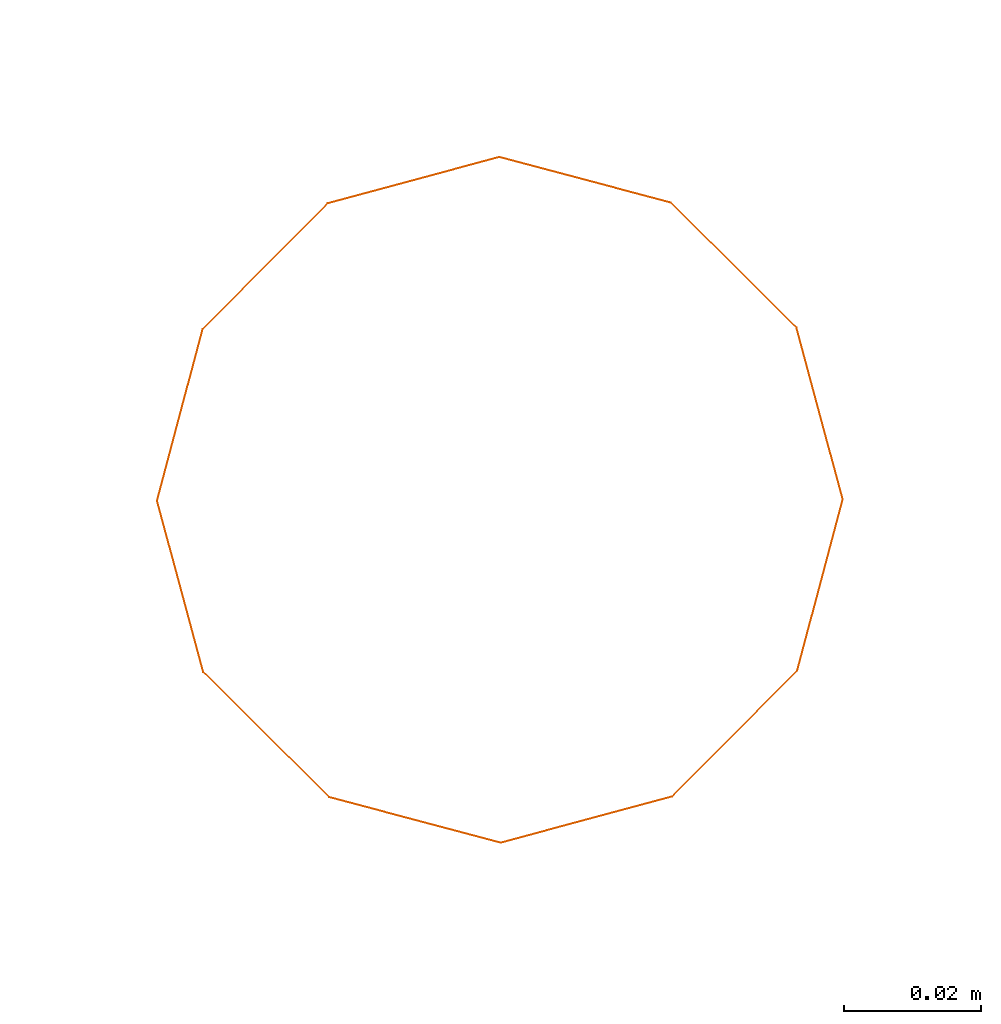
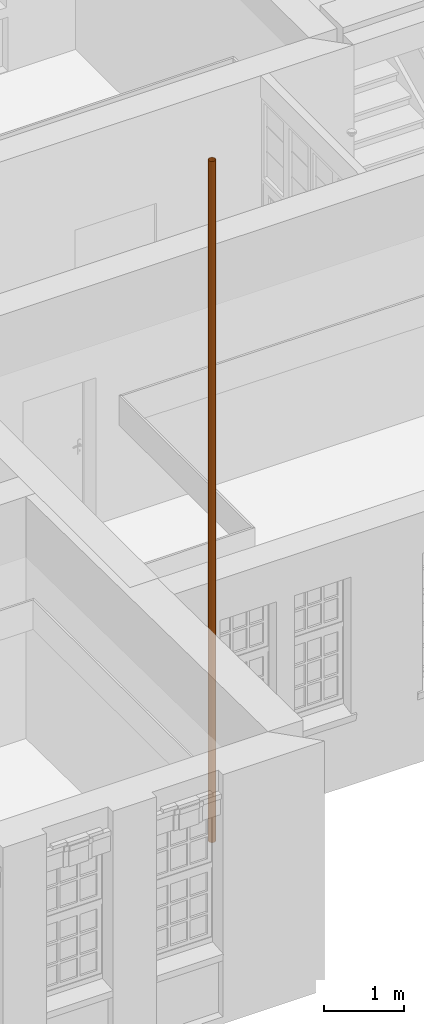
# One storey, part 144 of 158: 1 proxy.
"""IFC2X3 building model written with IfcOpenShell, lengths in metres."""

from ifc_helpers import new_model, entity, si_unit, converted_unit, derived_unit, money_unit, direction, frame, origin_with_axes, place, context, subcontext, project, spatial, open_shell, surface_model, type_object, element, save


model = new_model("IFC2X3")

# Units and contexts
model_context = context("Model", 3, precision=1e-05, world=origin_with_axes(), true_north=direction((0.0, 1.0)))
body_context = subcontext(model_context, "Body", "Model", "MODEL_VIEW")
ifc_project = project(units=[si_unit("LENGTHUNIT", "METRE"), si_unit("AREAUNIT", "SQUARE_METRE"), si_unit("VOLUMEUNIT", "CUBIC_METRE"), converted_unit("PLANEANGLEUNIT", "DEGREE", entity("IfcPlaneAngleMeasure", 0.0174532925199), si_unit("PLANEANGLEUNIT", "RADIAN"), dimensions=[0, 0, 0, 0, 0, 0, 0]), money_unit("EUR"), converted_unit("TIMEUNIT", "Year", entity("IfcTimeMeasure", 31556926.0), si_unit("TIMEUNIT", "SECOND"), dimensions=[0, 0, 1, 0, 0, 0, 0]), si_unit("MASSUNIT", "GRAM", prefix="KILO"), si_unit("THERMODYNAMICTEMPERATUREUNIT", "DEGREE_CELSIUS"), si_unit("LUMINOUSINTENSITYUNIT", "LUMEN"), si_unit("ENERGYUNIT", "JOULE", prefix="MEGA"), derived_unit("THERMALCONDUCTANCEUNIT", [(si_unit("POWERUNIT", "WATT"), 1), (si_unit("LENGTHUNIT", "METRE"), -1), (si_unit("THERMODYNAMICTEMPERATUREUNIT", "KELVIN"), -1)]), derived_unit("SPECIFICHEATCAPACITYUNIT", [(si_unit("ENERGYUNIT", "JOULE"), 1), (si_unit("MASSUNIT", "GRAM", prefix="KILO"), -1), (si_unit("THERMODYNAMICTEMPERATUREUNIT", "KELVIN"), -1)]), derived_unit("MASSDENSITYUNIT", [(si_unit("MASSUNIT", "GRAM", prefix="KILO"), 1), (si_unit("VOLUMEUNIT", "CUBIC_METRE"), -1)])], contexts=[model_context])

# Site, building, storey
site_placement = place(None, origin_with_axes())
site = spatial("IfcSite", under=ifc_project, at=site_placement, Name="Gelände", CompositionType="ELEMENT")
building_placement = place(site_placement, origin_with_axes())
building = spatial("IfcBuilding", under=site, at=building_placement, Name="Gebäude", CompositionType="ELEMENT")
storey_placement = place(building_placement, origin_with_axes())
storey = spatial("IfcBuildingStorey", under=building, at=storey_placement, Name="ERDGESCHOSS", CompositionType="ELEMENT", Elevation=0.0)

# Proxy
building_element_proxy_type = type_object("IfcBuildingElementProxyType", Name="Fallrohr 25", PredefinedType="NOTDEFINED")
proxy_placement = place(storey_placement, frame((-17.6972907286, 9.20539933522, 0.2824585), z_axis=(0.0, 0.0, 1.0), x_axis=(0.999998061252, 0.00196913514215, 0.0)))
element("IfcBuildingElementProxy", 1, at=proxy_placement, inside=storey, type_object=building_element_proxy_type, Name="Objekt-00223", context=body_context, shape_type="SurfaceModel", body=[
    surface_model("IfcShellBasedSurfaceModel", [(0.05, 0.0, 10.4130382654), (0.0433012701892, -0.025, 10.4130382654), (0.0433012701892, -0.025, 0.0), (0.05, 0.0, 0.0), (0.025, -0.0433012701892, 10.4130382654), (0.025, -0.0433012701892, 0.0), (0.0433012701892, 0.025, 10.4130382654), (0.0433012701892, 0.025, 0.0), (0.0, -0.05, 10.4130382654), (0.0, -0.05, 0.0), (0.025, 0.0433012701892, 10.4130382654), (0.025, 0.0433012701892, 0.0), (-0.025, -0.0433012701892, 10.4130382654), (-0.025, -0.0433012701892, 0.0), (0.0, 0.05, 10.4130382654), (0.0, 0.05, 0.0), (-0.0433012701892, -0.025, 10.4130382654), (-0.0433012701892, -0.025, 0.0), (-0.025, 0.0433012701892, 10.4130382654), (-0.025, 0.0433012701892, 0.0), (-0.05, 0.0, 10.4130382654), (-0.05, 0.0, 0.0), (-0.0433012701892, 0.025, 10.4130382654), (-0.0433012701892, 0.025, 0.0)], [open_shell([[[0, 1, 2, 3]], [[1, 4, 5, 2]], [[6, 0, 3, 7]], [[4, 8, 9, 5]], [[10, 6, 7, 11]], [[8, 12, 13, 9]], [[14, 10, 11, 15]], [[12, 16, 17, 13]], [[18, 14, 15, 19]], [[16, 20, 21, 17]], [[22, 18, 19, 23]], [[20, 22, 23, 21]]])]),
])

save(model, "model.ifc")
